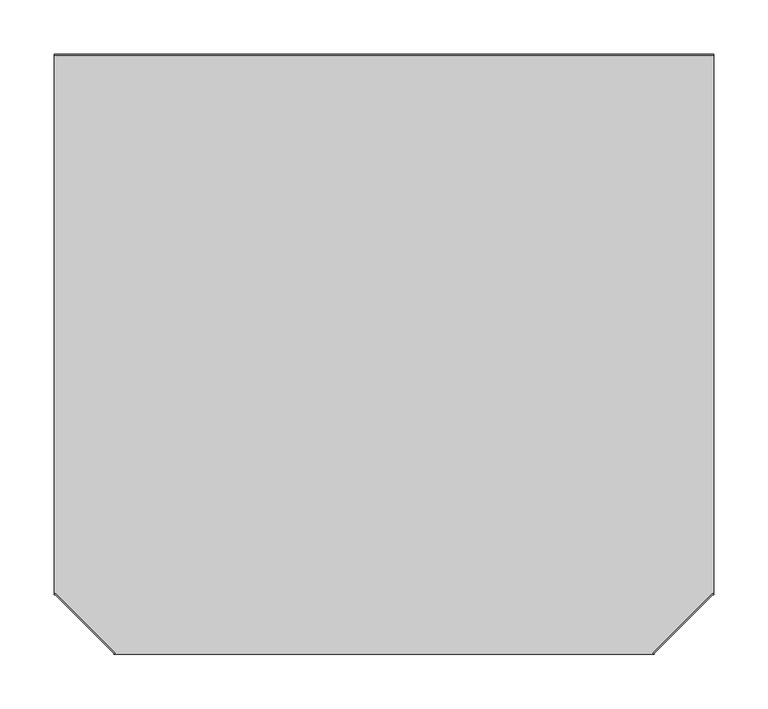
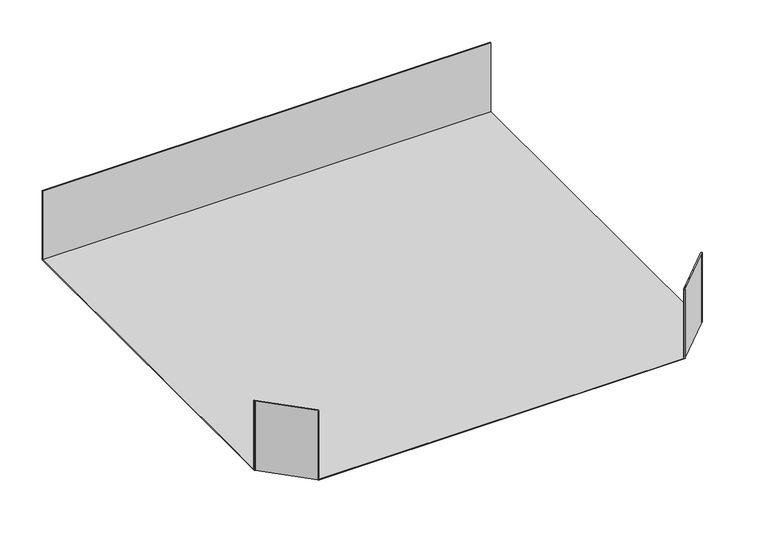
"""IFC4 building model written with IfcOpenShell, lengths in millimetres: cable carrier fitting geometry, BAKS_Horizontal tee : TKJ_H100."""

import ifcopenshell
import ifcopenshell.guid

model = None  # the IFC model being written
_history = None  # IfcOwnerHistory: only IFC2X3 demands one
_inside = {}  # id of a spatial element -> (the spatial element, [elements in it])
_under = {}  # id of a project, library or spatial element -> (it, [spatial elements below it])
_declared = {}  # id of a project -> (the project, [libraries it declares])
_typed = {}  # id of a type object -> (the type object, [elements of that type])
_made_of = {}  # id of a material, layer set ... -> (it, [elements and type objects made of it])


def new_model(schema):
    """Start an empty IFC model of exactly this schema.

    Asked for "IFC4X3", IfcOpenShell would pick the latest addendum, in which some entities
    have other attributes; the version numbers below select the first issue.
    IFC2X3 requires an IfcOwnerHistory on every rooted entity: one is made here for all.
    """
    global model, _history
    if schema == "IFC4X3":
        model = ifcopenshell.file(schema_version=(4, 3, 0, 0))
    else:
        model = ifcopenshell.file(schema=schema)
    _inside.clear()
    _under.clear()
    _declared.clear()
    _typed.clear()
    _made_of.clear()
    _history = None
    if model.schema == "IFC2X3":
        org = make("IfcOrganization", Name="unknown")
        user = make(
            "IfcPersonAndOrganization",
            ThePerson=make("IfcPerson", FamilyName="unknown"),
            TheOrganization=org,
        )
        app = make(
            "IfcApplication",
            ApplicationDeveloper=org,
            Version="unknown",
            ApplicationFullName="unknown",
            ApplicationIdentifier="unknown",
        )
        _history = make(
            "IfcOwnerHistory",
            OwningUser=user,
            OwningApplication=app,
            ChangeAction="ADDED",
            CreationDate=0,
        )
    return model


def make(cls, **values):
    """One entity of the class cls with the attributes given. An attribute that is None is left unset."""
    return model.create_entity(
        cls, **{name: value for name, value in values.items() if value is not None}
    )


def rooted(cls, **values):
    """An entity with a GlobalId (a new one), such as an element, a storey or a relation."""
    return make(cls, GlobalId=ifcopenshell.guid.new(), OwnerHistory=_history, **values)


def si_unit(unit_type, name, prefix=None):
    """IfcSIUnit, for example si_unit("LENGTHUNIT", "METRE", prefix="MILLI")."""
    return make("IfcSIUnit", UnitType=unit_type, Prefix=prefix, Name=name)


def assignment(units):
    """IfcUnitAssignment: the units of a project."""
    return None if units is None else make("IfcUnitAssignment", Units=units)


def point(xyz):
    """IfcCartesianPoint."""
    return None if xyz is None else make("IfcCartesianPoint", Coordinates=xyz)


def direction(xyz):
    """IfcDirection."""
    return None if xyz is None else make("IfcDirection", DirectionRatios=xyz)


def frame(location, z_axis=None, x_axis=None):
    """IfcAxis2Placement3D, a coordinate frame: its origin and axes. An axis left out is left unset."""
    return make(
        "IfcAxis2Placement3D",
        Location=point(location),
        Axis=direction(z_axis),
        RefDirection=direction(x_axis),
    )


def origin():
    """The frame at (0, 0, 0) with its axes left unset."""
    return frame((0.0, 0.0, 0.0))


def place(relative_to, where):
    """IfcLocalPlacement: puts the frame where relative to a parent placement (None: the world)."""
    return make(
        "IfcLocalPlacement", PlacementRelTo=relative_to, RelativePlacement=where
    )


def context(
    kind, dimensions, precision=None, world=None, true_north=None, identifier=None
):
    """IfcGeometricRepresentationContext, for example the 3D "Model" context."""
    return make(
        "IfcGeometricRepresentationContext",
        ContextIdentifier=identifier,
        ContextType=kind,
        CoordinateSpaceDimension=dimensions,
        Precision=precision,
        WorldCoordinateSystem=world,
        TrueNorth=true_north,
    )


def project(units=None, contexts=None):
    """IfcProject with its units and contexts."""
    return rooted(
        "IfcProject",
        Name="project",
        RepresentationContexts=contexts,
        UnitsInContext=assignment(units),
    )


def spatial(cls, under=None, at=None, **own):
    """A site, building, storey or space (cls), placed at a placement, below another one or the project."""
    s = rooted(cls, ObjectPlacement=at, **own)
    if under is not None:
        _under.setdefault(under.id(), (under, []))[1].append(s)
    return s


def faces_of(points, faces, orient=None, outer=None):
    """IfcFace entities. A face is a list of loops; a loop is a list of indices into points, from 0.

    orient and outer hold one flag for each loop. By default every Orientation is true, the
    first loop of a face is its IfcFaceOuterBound and the others are IfcFaceBound.
    """
    made = []
    for i, loops in enumerate(faces):
        bounds = []
        for j, loop in enumerate(loops):
            is_outer = j == 0 if outer is None else outer[i][j]
            bounds.append(
                make(
                    "IfcFaceOuterBound" if is_outer else "IfcFaceBound",
                    Bound=make("IfcPolyLoop", Polygon=[points[k] for k in loop]),
                    Orientation=True if orient is None else orient[i][j],
                )
            )
        made.append(make("IfcFace", Bounds=bounds))
    return made


def faceted_brep(points, faces, orient=None, outer=None, voids=None):
    """IfcFacetedBrep: a solid bounded by flat faces; with voids (closed shells), ...WithVoids."""
    shared = [point(p) for p in points]
    hull = make("IfcClosedShell", CfsFaces=faces_of(shared, faces, orient, outer))
    if voids is None:
        return make("IfcFacetedBrep", Outer=hull)
    return make(
        "IfcFacetedBrepWithVoids",
        Outer=hull,
        Voids=[
            make(cls, CfsFaces=faces_of(shared, fs, o, b)) for cls, fs, o, b in voids
        ],
    )


def shape(context_of_items, identifier, shape_type, items):
    """IfcShapeRepresentation: the items that make up one representation, for example the "Body"."""
    return make(
        "IfcShapeRepresentation",
        ContextOfItems=context_of_items,
        RepresentationIdentifier=identifier,
        RepresentationType=shape_type,
        Items=items,
    )


def source(mapping_origin, context_of_items, identifier, shape_type, items):
    """IfcRepresentationMap: a shape defined once, which mapped items show again and again."""
    return make(
        "IfcRepresentationMap",
        MappingOrigin=mapping_origin,
        MappedRepresentation=shape(context_of_items, identifier, shape_type, items),
    )


def transform(
    local_origin,
    x_axis=None,
    y_axis=None,
    z_axis=None,
    scale=None,
    scale2=None,
    scale3=None,
    uniform=True,
):
    """IfcCartesianTransformationOperator3D, or its non-uniform kind. x_axis, y_axis, z_axis: its Axis1, 2, 3."""
    if uniform:
        return make(
            "IfcCartesianTransformationOperator3D",
            Axis1=direction(x_axis),
            Axis2=direction(y_axis),
            LocalOrigin=point(local_origin),
            Scale=scale,
            Axis3=direction(z_axis),
        )
    return make(
        "IfcCartesianTransformationOperator3DnonUniform",
        Axis1=direction(x_axis),
        Axis2=direction(y_axis),
        LocalOrigin=point(local_origin),
        Scale=scale,
        Axis3=direction(z_axis),
        Scale2=scale2,
        Scale3=scale3,
    )


def mapped(mapping_source, mapping_target):
    """IfcMappedItem: shows the shape of a source again, moved by a transform."""
    return make(
        "IfcMappedItem", MappingSource=mapping_source, MappingTarget=mapping_target
    )


def made_of(thing, what):
    """Note that an element or type object is made of a material, layer set ...; save() writes the relation."""
    if what is not None:
        _made_of.setdefault(what.id(), (what, []))[1].append(thing)
    return thing


def element(
    cls,
    number,
    at=None,
    inside=None,
    cuts=None,
    type_object=None,
    material=None,
    context=None,
    identifier="Body",
    shape_type=None,
    held_by="IfcProductDefinitionShape",
    body=None,
    shapes=None,
    **own,
):
    """One element of the class cls, such as IfcWall. Its Tag is "e" and its number.

    at: its placement. inside: the storey or other place that contains it. cuts: it is an
    opening in that element (IfcRelVoidsElement). A single representation is given by context,
    identifier, shape_type and body (its items); several are given by shapes. held_by: the class
    of the entity that holds the representations. save() writes the other relations.
    """
    e = rooted(cls, Tag="e%d" % number, ObjectPlacement=at, **own)
    if body is not None:
        shapes = [shape(context, identifier, shape_type, body)]
    if shapes is not None:
        e.Representation = make(held_by, Representations=shapes)
    if inside is not None:
        _inside.setdefault(inside.id(), (inside, []))[1].append(e)
    if cuts is not None:
        rooted(
            "IfcRelVoidsElement", RelatingBuildingElement=cuts, RelatedOpeningElement=e
        )
    if type_object is not None:
        _typed.setdefault(type_object.id(), (type_object, []))[1].append(e)
    return made_of(e, material)


def aggregate(whole, parts):
    """IfcRelAggregates: a whole, such as a stair, and the parts it consists of."""
    return rooted("IfcRelAggregates", RelatingObject=whole, RelatedObjects=parts)


def save(model, path):
    """Write the relations noted so far, then the file.

    IfcRelAggregates (storeys below a building ...), IfcRelContainedInSpatialStructure (elements
    in a storey), IfcRelDefinesByType, IfcRelAssociatesMaterial and IfcRelDeclares: one each for
    every whole, place, type object, material and project.
    """
    for whole, parts in _under.values():
        aggregate(whole, parts)
    for where, things in _inside.values():
        rooted(
            "IfcRelContainedInSpatialStructure",
            RelatedElements=things,
            RelatingStructure=where,
        )
    for kind, things in _typed.values():
        rooted("IfcRelDefinesByType", RelatedObjects=things, RelatingType=kind)
    for what, things in _made_of.values():
        rooted("IfcRelAssociatesMaterial", RelatedObjects=things, RelatingMaterial=what)
    for by, libraries in _declared.values():
        rooted("IfcRelDeclares", RelatingContext=by, RelatedDefinitions=libraries)
    model.write(path)


def cable_carrier_fitting_8809d5a3(model_context):
    return source(origin(), model_context, "Body", "Brep", [
        faceted_brep([(-249.0, -303.5857864, 50.0), (-303.5857864, -249.0, 50.0), (-305.0, -249.0, 50.0), (-305.0, -250.0, 50.0), (-304.0, -250.0, 50.0), (-250.0, -304.0, 50.0), (-250.0, -305.0, 50.0), (-249.0, -305.0, 50.0), (249.0, -303.5857864, 50.0), (249.0, -305.0, 50.0), (250.0, -305.0, 50.0), (250.0, -304.0, 50.0), (304.0, -250.0, 50.0), (305.0, -250.0, 50.0), (305.0, -249.0, 50.0), (303.5857864, -249.0, 50.0), (305.0, 250.0, 50.0), (-305.0, 250.0, 50.0), (-305.0, 249.0, 50.0), (305.0, 249.0, 50.0), (-250.0, -305.0, -50.0), (-250.0, -304.0, -50.0), (-304.0, -250.0, -50.0), (-305.0, -250.0, -50.0), (-305.0, 250.0, -50.0), (305.0, 250.0, -50.0), (305.0, -250.0, -50.0), (304.0, -250.0, -50.0), (250.0, -304.0, -50.0), (250.0, -305.0, -50.0), (-249.0, -303.5857864, -49.0), (-303.5857864, -249.0, -49.0), (-305.0, -249.0, -49.0), (-305.0, 249.0, -49.0), (-304.0, -250.0, -49.0), (-250.0, -304.0, -49.0), (249.0, -305.0, -49.0), (-249.0, -305.0, -49.0), (250.0, -304.0, -49.0), (304.0, -250.0, -49.0), (305.0, 249.0, -49.0), (305.0, -249.0, -49.0), (303.5857864, -249.0, -49.0), (249.0, -303.5857864, -49.0)], [[[0, 1, 2, 3, 4, 5, 6, 7]], [[8, 9, 10, 11, 12, 13, 14, 15]], [[16, 17, 18, 19]], [[20, 21, 22, 23, 24, 25, 26, 27, 28, 29]], [[1, 0, 30, 31]], [[2, 1, 31, 32]], [[3, 2, 32, 33, 18, 17, 24, 23]], [[4, 3, 23, 22, 34]], [[5, 4, 34, 22, 21, 35]], [[20, 6, 5, 35, 21]], [[7, 6, 20, 29, 10, 9, 36, 37]], [[0, 7, 37, 30]], [[12, 11, 38, 28, 27, 39]], [[26, 13, 12, 39, 27]], [[14, 13, 26, 25, 16, 19, 40, 41]], [[15, 14, 41, 42]], [[8, 15, 42, 43]], [[9, 8, 43, 36]], [[11, 10, 29, 28, 38]], [[24, 17, 16, 25]], [[19, 18, 33, 40]], [[37, 36, 43, 42, 41, 40, 33, 32, 31, 30]]]),
    ])


if __name__ == "__main__":
    model = new_model("IFC4")
    model_context = context("Model", 3, world=origin())
    ifc_project = project(units=[si_unit("LENGTHUNIT", "METRE", prefix="MILLI")], contexts=[model_context])
    site = spatial("IfcSite", under=ifc_project)
    building = spatial("IfcBuilding", under=site)
    placement = place(None, origin())
    cable_carrier_fitting_shape = cable_carrier_fitting_8809d5a3(model_context)
    element("IfcCableCarrierFitting", 1, ObjectType="BAKS_Horizontal tee : TKJ_H100", at=placement, inside=building, context=model_context, shape_type="MappedRepresentation", body=[
        mapped(cable_carrier_fitting_shape, transform((0.0, 0.0, 0.0), x_axis=(1.0, 0.0, 0.0), y_axis=(0.0, 1.0, 0.0), z_axis=(0.0, 0.0, 1.0))),
    ])
    save(model, "model.ifc")
